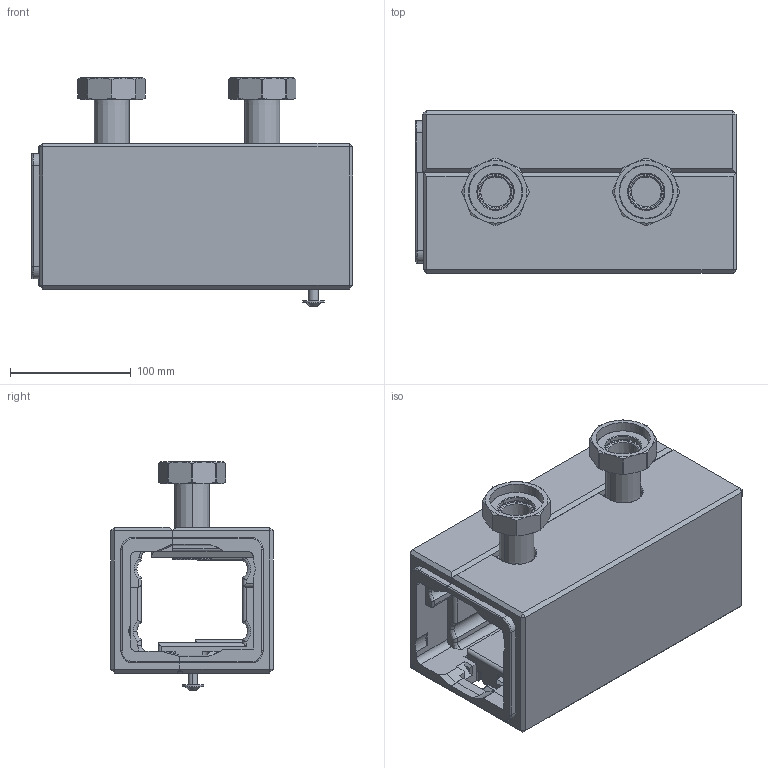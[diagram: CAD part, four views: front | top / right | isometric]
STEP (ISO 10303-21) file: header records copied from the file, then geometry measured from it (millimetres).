
FILE_DESCRIPTION (( 'STEP AP214' ), '1' );
FILE_NAME ('HSM_125B_rozszerzenie_ProFusion_HSM_125_o_1_obieg_buforowy_79621_0_3D_AFRISO.STEP', '2026-03-23T12:06:57', ( '' ), ( '' ), 'SwSTEP 2.0', 'SolidWorks 2023', '' );
FILE_SCHEMA (( 'AUTOMOTIVE_DESIGN' ));
Length unit declared in the file: millimetre
Products named in the file (8): 907380 8020_LKS ISO 7380-2 M8X20; 05 01 001311_W_X_E4rmed_X_E4mmung HSM 125; ISO 4032-M8-10_Sechskantmuttern; HSM_125B_rozszerzenie_ProFusion_HSM_125_o_1_obieg_buforowy_79621_0_3D_AFRISO; 05 00 410237__X_DCberwurfmutter G1 1_2 SW52-8kt MS_2; 05 01 001288_Einsteckstutzen lang G1 1_2 HSM; 05 00 410237__X_DCberwurfmutter G1 1_2 SW52-8kt MS; 05 01 001311_W_X_E4rmed_X_E4mmung HSM 125 R
Assembly tree (8 placements, depth 2):
  HSM_125B_rozszerzenie_ProFusion_HSM_125_o_1_obieg_buforowy_79621_0_3D_AFRISO
    05 00 410237__X_DCberwurfmutter G1 1_2 SW52-8kt MS
    05 00 410237__X_DCberwurfmutter G1 1_2 SW52-8kt MS_2
    05 01 001288_Einsteckstutzen lang G1 1_2 HSM  x2
    05 01 001311_W_X_E4rmed_X_E4mmung HSM 125
    05 01 001311_W_X_E4rmed_X_E4mmung HSM 125 R
    907380 8020_LKS ISO 7380-2 M8X20
    ISO 4032-M8-10_Sechskantmuttern
Bounding box: 266.52 x 134.99 x 189.34 mm (x, y, z)
Volume: 2384131.6 mm3; surface area: 328980 mm2
Topology: 8 solids, 8 shells, 1181 faces, 3026 edges, 1931 vertices
Faces by surface type: plane 616, cylinder 283, bspline 168, cone 112, torus 2
Entity records: 44224 total; most frequent: CARTESIAN_POINT 18327, ORIENTED_EDGE 5732, DIRECTION 4650, EDGE_CURVE 2866, VERTEX_POINT 1835, VECTOR 1804, LINE 1804, AXIS2_PLACEMENT_3D 1423
